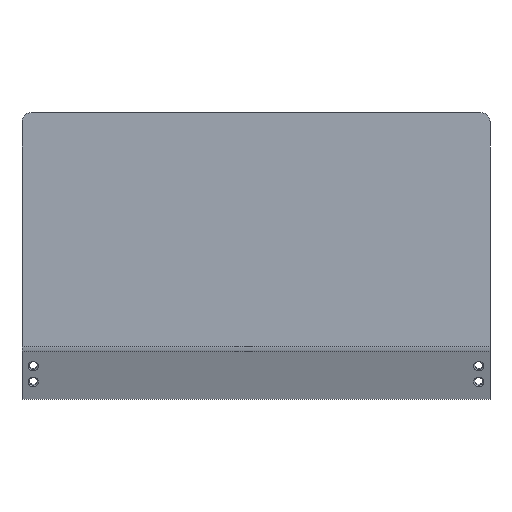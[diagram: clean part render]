
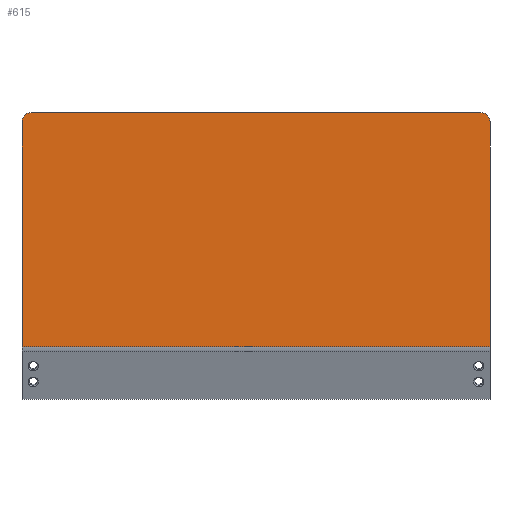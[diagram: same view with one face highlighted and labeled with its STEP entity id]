
A CAD part, front view. The second image highlights one B-rep face of the part: STEP entity #615.
In plain terms, the highlighted planar face has unit normal (0, -1, 0).
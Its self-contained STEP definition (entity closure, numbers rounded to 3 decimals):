
#9 = VERTEX_POINT ( 'NONE', #420 ) ;
#39 = LINE ( 'NONE', #261, #72 ) ;
#71 = VECTOR ( 'NONE', #413, 1000. ) ;
#72 = VECTOR ( 'NONE', #309, 1000. ) ;
#85 = CARTESIAN_POINT ( 'NONE',  ( 240., 0., 150. ) ) ;
#104 = EDGE_LOOP ( 'NONE', ( #685, #391, #555, #549, #476, #620 ) ) ;
#138 = LINE ( 'NONE', #708, #171 ) ;
#141 = CARTESIAN_POINT ( 'NONE',  ( 250., 0., 140. ) ) ;
#143 = AXIS2_PLACEMENT_3D ( 'NONE', #270, #156, #488 ) ;
#156 = DIRECTION ( 'NONE',  ( 0., -1., 0. ) ) ;
#158 = CIRCLE ( 'NONE', #572, 10. ) ;
#171 = VECTOR ( 'NONE', #277, 1000. ) ;
#174 = EDGE_CURVE ( 'NONE', #9, #381, #513, .T. ) ;
#209 = CARTESIAN_POINT ( 'NONE',  ( -250., 0., 140. ) ) ;
#211 = DIRECTION ( 'NONE',  ( 0., -1., 0. ) ) ;
#224 = EDGE_CURVE ( 'NONE', #505, #655, #158, .T. ) ;
#236 = VECTOR ( 'NONE', #424, 1000. ) ;
#251 = LINE ( 'NONE', #310, #236 ) ;
#261 = CARTESIAN_POINT ( 'NONE',  ( 250., 0., 150. ) ) ;
#270 = CARTESIAN_POINT ( 'NONE',  ( 250., 0., -100. ) ) ;
#277 = DIRECTION ( 'NONE',  ( 0., 0., 1. ) ) ;
#278 = AXIS2_PLACEMENT_3D ( 'NONE', #580, #631, #524 ) ;
#284 = EDGE_CURVE ( 'NONE', #518, #690, #390, .T. ) ;
#309 = DIRECTION ( 'NONE',  ( -1., 0., 0. ) ) ;
#310 = CARTESIAN_POINT ( 'NONE',  ( -250., 0., -100. ) ) ;
#340 = EDGE_CURVE ( 'NONE', #381, #655, #251, .T. ) ;
#381 = VERTEX_POINT ( 'NONE', #537 ) ;
#385 = FACE_OUTER_BOUND ( 'NONE', #104, .T. ) ;
#390 = CIRCLE ( 'NONE', #278, 10. ) ;
#391 = ORIENTED_EDGE ( 'NONE', *, *, #284, .T. ) ;
#413 = DIRECTION ( 'NONE',  ( -1., 0., 0. ) ) ;
#420 = CARTESIAN_POINT ( 'NONE',  ( 250., 0., -100. ) ) ;
#424 = DIRECTION ( 'NONE',  ( 0., 0., 1. ) ) ;
#476 = ORIENTED_EDGE ( 'NONE', *, *, #340, .F. ) ;
#488 = DIRECTION ( 'NONE',  ( 0., 0., -1. ) ) ;
#505 = VERTEX_POINT ( 'NONE', #695 ) ;
#511 = CARTESIAN_POINT ( 'NONE',  ( 250., 0., -100. ) ) ;
#513 = LINE ( 'NONE', #511, #71 ) ;
#518 = VERTEX_POINT ( 'NONE', #141 ) ;
#524 = DIRECTION ( 'NONE',  ( 0., 0., -1. ) ) ;
#537 = CARTESIAN_POINT ( 'NONE',  ( -250., 0., -100. ) ) ;
#538 = EDGE_CURVE ( 'NONE', #690, #505, #39, .T. ) ;
#546 = DIRECTION ( 'NONE',  ( 0., 0., -1. ) ) ;
#547 = PLANE ( 'NONE',  #143 ) ;
#549 = ORIENTED_EDGE ( 'NONE', *, *, #224, .T. ) ;
#554 = EDGE_CURVE ( 'NONE', #9, #518, #138, .T. ) ;
#555 = ORIENTED_EDGE ( 'NONE', *, *, #538, .T. ) ;
#572 = AXIS2_PLACEMENT_3D ( 'NONE', #714, #211, #546 ) ;
#580 = CARTESIAN_POINT ( 'NONE',  ( 240., 0., 140. ) ) ;
#615 = ADVANCED_FACE ( 'NONE', ( #385 ), #547, .T. ) ;
#620 = ORIENTED_EDGE ( 'NONE', *, *, #174, .F. ) ;
#631 = DIRECTION ( 'NONE',  ( 0., -1., 0. ) ) ;
#655 = VERTEX_POINT ( 'NONE', #209 ) ;
#685 = ORIENTED_EDGE ( 'NONE', *, *, #554, .T. ) ;
#690 = VERTEX_POINT ( 'NONE', #85 ) ;
#695 = CARTESIAN_POINT ( 'NONE',  ( -240., 0., 150. ) ) ;
#708 = CARTESIAN_POINT ( 'NONE',  ( 250., 0., -100. ) ) ;
#714 = CARTESIAN_POINT ( 'NONE',  ( -240., 0., 140. ) ) ;
